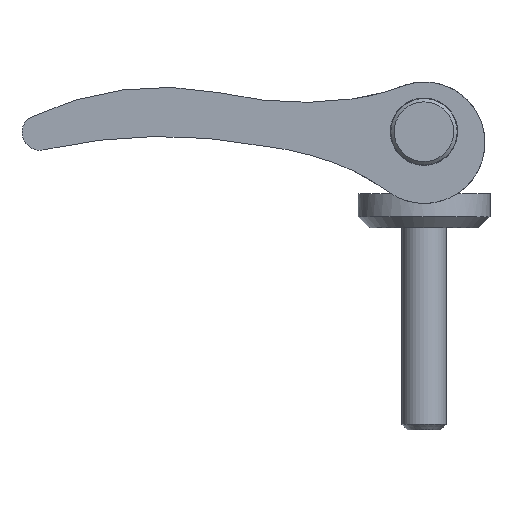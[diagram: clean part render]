
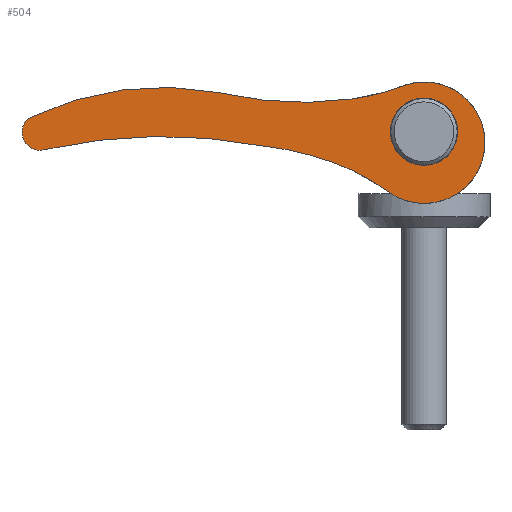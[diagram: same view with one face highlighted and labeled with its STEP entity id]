
A CAD part, front view. The second image highlights one B-rep face of the part: STEP entity #504.
In plain terms, the highlighted planar face has unit normal (0, -1, 0).
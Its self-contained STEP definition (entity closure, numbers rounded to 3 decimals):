
#504=ADVANCED_FACE('',(#781,#783),#785,.F.);
#781=FACE_BOUND('',#782,.T.);
#782=EDGE_LOOP('',(#1081,#1082,#1083,#1084,#1085,#1086,#1087,#1088,#1089,#1090));
#783=FACE_BOUND('',#784,.T.);
#784=EDGE_LOOP('',(#1091));
#785=PLANE('',#786);
#786=AXIS2_PLACEMENT_3D('',#787,#788,#789);
#787=CARTESIAN_POINT('',(0.,0.,0.));
#788=DIRECTION('',(0.,1.,0.));
#789=DIRECTION('',(-1.,0.,0.));
#1081=ORIENTED_EDGE('',*,*,#1252,.F.);
#1082=ORIENTED_EDGE('',*,*,#1253,.F.);
#1083=ORIENTED_EDGE('',*,*,#1254,.F.);
#1084=ORIENTED_EDGE('',*,*,#1255,.F.);
#1085=ORIENTED_EDGE('',*,*,#1256,.F.);
#1086=ORIENTED_EDGE('',*,*,#1228,.F.);
#1087=ORIENTED_EDGE('',*,*,#1225,.F.);
#1088=ORIENTED_EDGE('',*,*,#1215,.F.);
#1089=ORIENTED_EDGE('',*,*,#1250,.F.);
#1090=ORIENTED_EDGE('',*,*,#1257,.F.);
#1091=ORIENTED_EDGE('',*,*,#1238,.T.);
#1215=EDGE_CURVE('',#1350,#1352,#1353,.T.);
#1225=EDGE_CURVE('',#1352,#1370,#1371,.T.);
#1228=EDGE_CURVE('',#1370,#1374,#1375,.T.);
#1238=EDGE_CURVE('',#1393,#1393,#1394,.T.);
#1250=EDGE_CURVE('',#1412,#1350,#1413,.T.);
#1252=EDGE_CURVE('',#1415,#1416,#1417,.F.);
#1253=EDGE_CURVE('',#1418,#1415,#1419,.T.);
#1254=EDGE_CURVE('',#1420,#1418,#1421,.T.);
#1255=EDGE_CURVE('',#1422,#1420,#1423,.T.);
#1256=EDGE_CURVE('',#1374,#1422,#1424,.T.);
#1257=EDGE_CURVE('',#1416,#1412,#1425,.T.);
#1350=VERTEX_POINT('',#1961);
#1352=VERTEX_POINT('',#1965);
#1353=CIRCLE('',#1966,20.005);
#1370=VERTEX_POINT('',#2059);
#1371=CIRCLE('',#2060,5.5);
#1374=VERTEX_POINT('',#2116);
#1375=CIRCLE('',#2117,19.991);
#1393=VERTEX_POINT('',#2335);
#1394=CIRCLE('',#2336,3.05);
#1412=VERTEX_POINT('',#2386);
#1413=CIRCLE('',#2387,33.);
#1415=VERTEX_POINT('',#2394);
#1416=VERTEX_POINT('',#2395);
#1417=CIRCLE('',#2396,1.);
#1418=VERTEX_POINT('',#2400);
#1419=CIRCLE('',#2401,1.62);
#1420=VERTEX_POINT('',#2405);
#1421=CIRCLE('',#2406,1.996);
#1422=VERTEX_POINT('',#2410);
#1423=CIRCLE('',#2411,48.246);
#1424=CIRCLE('',#2415,28.);
#1425=CIRCLE('',#2419,27.504);
#1961=CARTESIAN_POINT('',(-6.364,0.,3.075));
#1965=CARTESIAN_POINT('',(-1.889,0.,4.15));
#1966=AXIS2_PLACEMENT_3D('',#1967,#1968,#1969);
#1967=CARTESIAN_POINT('',(-8.766,0.,22.935));
#1968=DIRECTION('',(0.,-1.,0.));
#1969=DIRECTION('',(0.12,0.,-0.993));
#2059=CARTESIAN_POINT('',(-3.325,0.,-5.395));
#2060=AXIS2_PLACEMENT_3D('',#2061,#2062,#2063);
#2061=CARTESIAN_POINT('',(0.002,0.,-1.015));
#2062=DIRECTION('',(0.,1.,0.));
#2063=DIRECTION('',(-0.344,0.,0.939));
#2116=CARTESIAN_POINT('',(-8.314,0.,-2.627));
#2117=AXIS2_PLACEMENT_3D('',#2118,#2119,#2120);
#2118=CARTESIAN_POINT('',(-15.417,0.,-21.314));
#2119=DIRECTION('',(0.,-1.,0.));
#2120=DIRECTION('',(0.605,0.,0.796));
#2335=CARTESIAN_POINT('',(-3.05,0.,-0.015));
#2336=AXIS2_PLACEMENT_3D('',#2337,#2338,#2339);
#2337=CARTESIAN_POINT('',(0.,0.,-0.015));
#2338=DIRECTION('',(0.,1.,0.));
#2339=DIRECTION('',(-1.,0.,0.));
#2386=CARTESIAN_POINT('',(-18.505,0.,3.866));
#2387=AXIS2_PLACEMENT_3D('',#2388,#2389,#2390);
#2388=CARTESIAN_POINT('',(-10.326,0.,35.836));
#2389=DIRECTION('',(0.,-1.,0.));
#2390=DIRECTION('',(-0.248,0.,-0.969));
#2394=CARTESIAN_POINT('',(-35.844,0.,1.757));
#2395=CARTESIAN_POINT('',(-35.594,0.,1.922));
#2396=AXIS2_PLACEMENT_3D('',#2397,#2398,#2399);
#2397=CARTESIAN_POINT('',(-35.175,0.,1.014));
#2398=DIRECTION('',(0.,-1.,0.));
#2399=DIRECTION('',(-0.418,0.,0.908));
#2400=CARTESIAN_POINT('',(-34.35,0.,-1.015));
#2401=AXIS2_PLACEMENT_3D('',#2402,#2403,#2404);
#2402=CARTESIAN_POINT('',(-34.76,0.,0.552));
#2403=DIRECTION('',(0.,1.,0.));
#2404=DIRECTION('',(0.253,0.,-0.967));
#2405=CARTESIAN_POINT('',(-34.245,0.,-0.991));
#2406=AXIS2_PLACEMENT_3D('',#2407,#2408,#2409);
#2407=CARTESIAN_POINT('',(-33.844,0.,-2.946));
#2408=DIRECTION('',(0.,-1.,0.));
#2409=DIRECTION('',(-0.201,0.,0.98));
#2410=CARTESIAN_POINT('',(-14.666,0.,-1.032));
#2411=AXIS2_PLACEMENT_3D('',#2412,#2413,#2414);
#2412=CARTESIAN_POINT('',(-24.555,0.,-48.254));
#2413=DIRECTION('',(0.,-1.,0.));
#2414=DIRECTION('',(0.205,0.,0.979));
#2415=AXIS2_PLACEMENT_3D('',#2416,#2417,#2418);
#2416=CARTESIAN_POINT('',(-18.263,0.,-28.8));
#2417=DIRECTION('',(0.,-1.,0.));
#2418=DIRECTION('',(0.355,0.,0.935));
#2419=AXIS2_PLACEMENT_3D('',#2420,#2421,#2422);
#2420=CARTESIAN_POINT('',(-24.097,0.,-23.063));
#2421=DIRECTION('',(0.,1.,0.));
#2422=DIRECTION('',(-0.418,0.,0.908));
